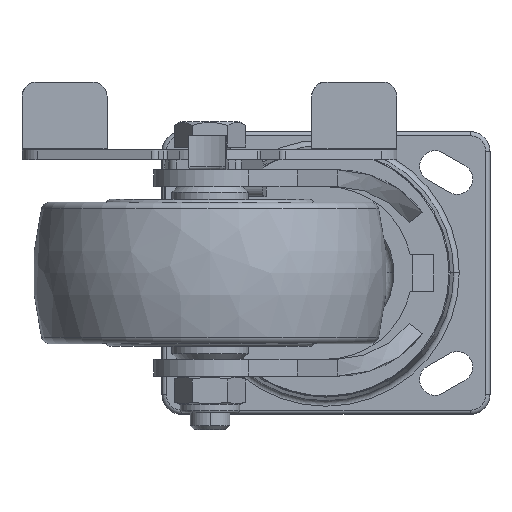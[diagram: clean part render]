
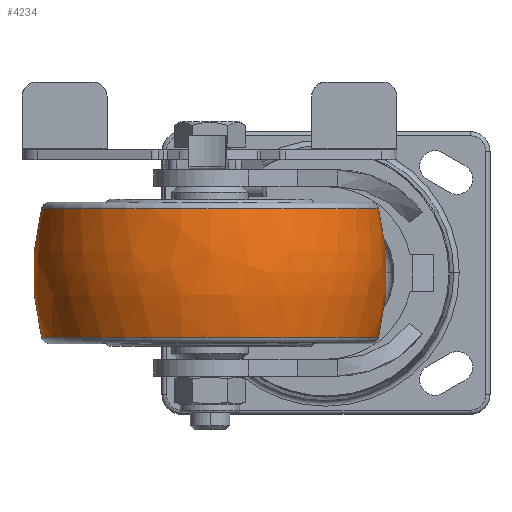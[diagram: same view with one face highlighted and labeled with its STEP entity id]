
A CAD part, front view. The second image highlights one B-rep face of the part: STEP entity #4234.
In plain terms, the highlighted free-form (B-spline) face has degree [3, 3] with [7, 4] control points.
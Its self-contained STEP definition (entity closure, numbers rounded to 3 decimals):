
#3624=CARTESIAN_POINT('',(0.,-27.499,0.));
#3625=DIRECTION('',(0.,0.,1.));
#3626=DIRECTION('',(0.253,0.967,0.));
#3627=AXIS2_PLACEMENT_3D('',#3624,#3625,#3626);
#3629=CARTESIAN_POINT('',(0.,27.499,0.));
#3630=DIRECTION('',(0.,0.,-1.));
#3631=DIRECTION('',(0.253,-0.967,0.));
#3632=AXIS2_PLACEMENT_3D('',#3629,#3630,#3631);
#3634=CARTESIAN_POINT('',(22.759,0.,0.));
#3635=DIRECTION('',(-1.,0.,0.));
#3636=DIRECTION('',(0.,1.,0.));
#3637=AXIS2_PLACEMENT_3D('',#3634,#3635,#3636);
#3649=CARTESIAN_POINT('',(-22.759,0.,0.));
#3650=DIRECTION('',(-1.,0.,0.));
#3651=DIRECTION('',(0.,1.,0.));
#3652=AXIS2_PLACEMENT_3D('',#3649,#3650,#3651);
#4053=CARTESIAN_POINT('',(22.759,59.576,0.));
#4054=CARTESIAN_POINT('',(-22.759,59.576,0.));
#4055=VERTEX_POINT('',#4053);
#4056=VERTEX_POINT('',#4054);
#4093=CARTESIAN_POINT('',(22.759,-59.576,
0.));
#4094=CARTESIAN_POINT('',(-22.759,-59.576,
0.));
#4095=VERTEX_POINT('',#4093);
#4096=VERTEX_POINT('',#4094);
#4197=CARTESIAN_POINT('',(-23.648,-59.222,
3.726));
#4198=CARTESIAN_POINT('',(-8.072,-63.455,
3.992));
#4199=CARTESIAN_POINT('',(8.072,-63.455,3.992));
#4200=CARTESIAN_POINT('',(23.648,-59.222,3.726));
#4201=CARTESIAN_POINT('',(-23.648,-61.515,
-32.719));
#4202=CARTESIAN_POINT('',(-8.072,-65.912,
-35.058));
#4203=CARTESIAN_POINT('',(8.072,-65.912,
-35.058));
#4204=CARTESIAN_POINT('',(23.648,-61.515,
-32.719));
#4205=CARTESIAN_POINT('',(-23.648,-36.517,
-59.339));
#4206=CARTESIAN_POINT('',(-8.072,-39.127,
-63.581));
#4207=CARTESIAN_POINT('',(8.072,-39.127,
-63.581));
#4208=CARTESIAN_POINT('',(23.648,-36.517,
-59.339));
#4209=CARTESIAN_POINT('',(-23.648,0.,
-59.339));
#4210=CARTESIAN_POINT('',(-8.072,0.,
-63.581));
#4211=CARTESIAN_POINT('',(8.072,0.,
-63.581));
#4212=CARTESIAN_POINT('',(23.648,0.,
-59.339));
#4213=CARTESIAN_POINT('',(-23.648,36.517,
-59.339));
#4214=CARTESIAN_POINT('',(-8.072,39.127,
-63.581));
#4215=CARTESIAN_POINT('',(8.072,39.127,-63.581));
#4216=CARTESIAN_POINT('',(23.648,36.517,-59.339));
#4217=CARTESIAN_POINT('',(-23.648,61.515,
-32.719));
#4218=CARTESIAN_POINT('',(-8.072,65.912,
-35.058));
#4219=CARTESIAN_POINT('',(8.072,65.912,-35.058));
#4220=CARTESIAN_POINT('',(23.648,61.515,-32.719));
#4221=CARTESIAN_POINT('',(-23.648,59.222,3.726));
#4222=CARTESIAN_POINT('',(-8.072,63.455,3.992));
#4223=CARTESIAN_POINT('',(8.072,63.455,3.992));
#4224=CARTESIAN_POINT('',(23.648,59.222,3.726));
#4225=(BOUNDED_SURFACE()B_SPLINE_SURFACE(3,3,((#4197,#4198,#4199,#4200),(#4201,
#4202,#4203,#4204),(#4205,#4206,#4207,#4208),(#4209,#4210,#4211,#4212),(#4213,
#4214,#4215,#4216),(#4217,#4218,#4219,#4220),(#4221,#4222,#4223,#4224)),
.UNSPECIFIED.,.F.,.F.,.F.)B_SPLINE_SURFACE_WITH_KNOTS((4,3,4),(4,4),(0.,1.,
2.),(0.,1.),.UNSPECIFIED.)GEOMETRIC_REPRESENTATION_ITEM()RATIONAL_B_SPLINE_SURFACE(((1.208,1.18,1.18,1.208),(
0.954,0.932,0.932,0.954),(
0.954,0.932,0.932,0.954),(
1.208,1.18,1.18,1.208),(
0.954,0.932,0.932,0.954),(
0.954,0.932,0.932,0.954),(
1.208,1.18,1.18,1.208)))REPRESENTATION_ITEM('')SURFACE());
#4226=ORIENTED_EDGE('',*,*,#4186,.T.);
#4228=ORIENTED_EDGE('',*,*,#4227,.T.);
#4229=ORIENTED_EDGE('',*,*,#4190,.F.);
#4231=ORIENTED_EDGE('',*,*,#4230,.F.);
#4232=EDGE_LOOP('',(#4226,#4228,#4229,#4231));
#4233=FACE_OUTER_BOUND('',#4232,.F.);
#3628=CIRCLE('',#3627,90.);
#3633=CIRCLE('',#3632,90.);
#3638=CIRCLE('',#3637,59.576);
#3653=CIRCLE('',#3652,59.576);
#4186=EDGE_CURVE('',#4055,#4056,#3628,.T.);
#4190=EDGE_CURVE('',#4095,#4096,#3633,.T.);
#4227=EDGE_CURVE('',#4056,#4096,#3653,.T.);
#4230=EDGE_CURVE('',#4055,#4095,#3638,.T.);
#4234=ADVANCED_FACE('',(#4233),#4225,.T.);
